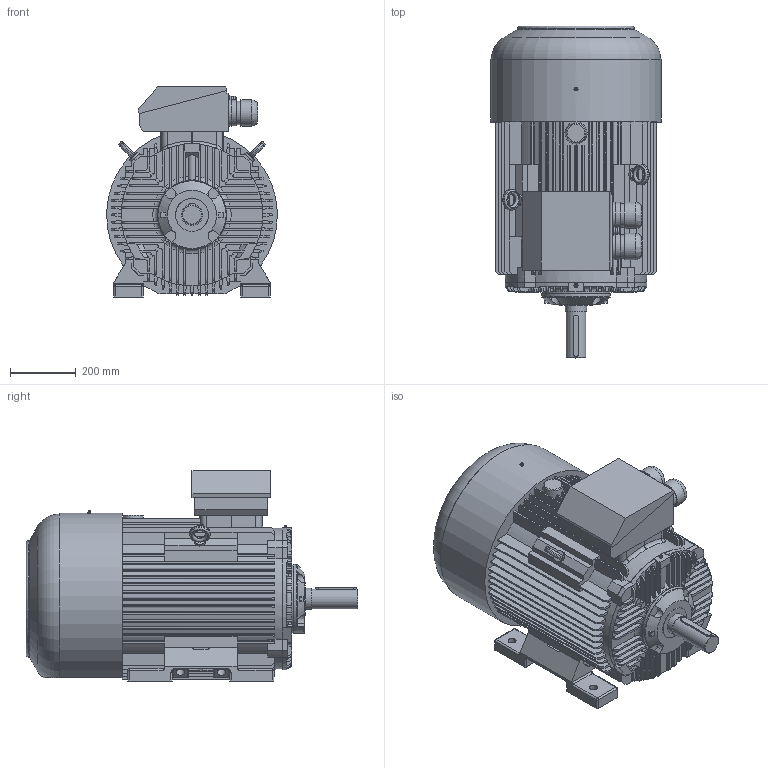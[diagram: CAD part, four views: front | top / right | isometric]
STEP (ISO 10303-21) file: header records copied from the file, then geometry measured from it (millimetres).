
FILE_DESCRIPTION( ( 'Unknown' ), '1' );
FILE_NAME( 'C:/Documents and Settings/kwalica/Pulpit/2,3 SIE paczka/3SIE 250/STP/2SIE250M2 silnik.stp', 'Unknown', ( 'Unknown' ), ( 'Unknown' ), 'XStep 1.0', 'Unknown', ' ' );
FILE_SCHEMA( ( 'CONFIG_CONTROL_DESIGN' ) );
Length unit declared in the file: millimetre
Products named in the file (3): 1; 2; 3
Bounding box: 519.62 x 1010.01 x 639.3 mm (x, y, z)
Volume: 153432076.1 mm3; surface area: 3528767.7 mm2
Topology: 3 solids, 6 shells, 1311 faces, 3482 edges, 2174 vertices
Faces by surface type: plane 726, cylinder 362, torus 93, bspline 72, sphere 48, cone 10
Full cylindrical faces by diameter (mm): 1.6 x2, 5 x6, 11.083 x1, 17.5 x4, 19 x1, 21 x1, 23 x1, 24 x4, 26 x4, 27 x1, 35 x4, 40 x2, 60 x1, 64.5 x1, 71.32 x2, 78.781 x2, 80.024 x2, 81.268 x2, 100 x1, 208 x1, 210 x1
Entity records: 51665 total; most frequent: CARTESIAN_POINT 19628, ORIENTED_EDGE 6670, DIRECTION 6630, EDGE_CURVE 3335, AXIS2_PLACEMENT_3D 2290, VERTEX_POINT 2143, LINE 2050, VECTOR 2050
